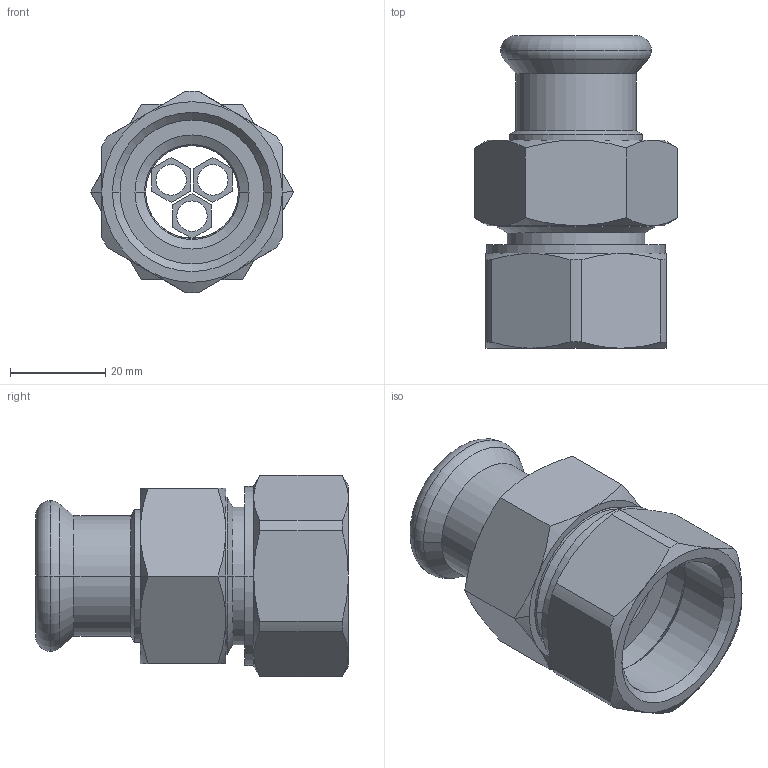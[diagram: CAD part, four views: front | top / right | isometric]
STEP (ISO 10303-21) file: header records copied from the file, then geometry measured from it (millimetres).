
FILE_DESCRIPTION(('OneSpaceDesigner STEP Export'),'2;1');
FILE_NAME('R2738 22xRp1.stp','2010-06-10T14:23:14',(''),(''),'OneSpace Designer STEP processor for AP214 (Solid Model)','OneSpace Modeling 15.00A 14-Mar-2007 (C) CoCreate Software GmbH','');
FILE_SCHEMA(('AUTOMOTIVE_DESIGN { 1 0 10303 214 1 1 1 1 }'));
Length unit declared in the file: millimetre
Products named in the file (2): R2738_22xRp1
Assembly tree (1 placements, depth 2):
  R2738_22xRp1
    R2738_22xRp1
Bounding box: 42.72 x 65.8 x 42.49 mm (x, y, z)
Volume: 29534.6 mm3; surface area: 17862.8 mm2
Topology: 1 solids, 1 shells, 154 faces, 377 edges, 232 vertices
Faces by surface type: cone 51, plane 48, cylinder 47, torus 8
Entity records: 5713 total; most frequent: CARTESIAN_POINT 2564, ORIENTED_EDGE 754, DIRECTION 487, EDGE_CURVE 377, VERTEX_POINT 232, VECTOR 173, LINE 173, EDGE_LOOP 169
